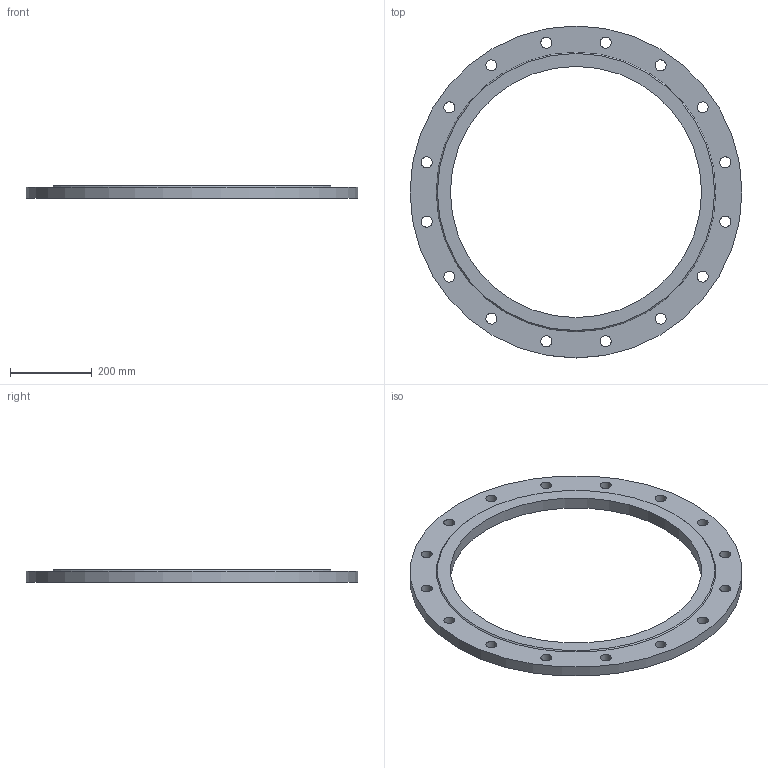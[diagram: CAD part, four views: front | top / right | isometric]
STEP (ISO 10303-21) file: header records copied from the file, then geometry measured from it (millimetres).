
FILE_DESCRIPTION(/* description */ (''),/* implementation_level */ '2;1');
FILE_NAME(/* name */ 'C:\Users\D\Documents\Inventor\HP\JIS\フランジ\水道用フランジF12\PL\ffws_pl_600.stp',/* time_stamp */ '2024-08-28T10:12:30+09:00',/* author */ ('D'),/* organization */ (''),/* preprocessor_version */ 'ST-DEVELOPER v18',/* originating_system */ 'Autodesk Inventor 2020',/* authorisation */ '');
FILE_SCHEMA (('AUTOMOTIVE_DESIGN { 1 0 10303 214 3 1 1 }'));
Length unit declared in the file: millimetre
Products named in the file (1): ffws_pl_80
Bounding box: 810 x 810 x 30 mm (x, y, z)
Volume: 5898209.8 mm3; surface area: 587795.9 mm2
Topology: 1 solids, 1 shells, 22 faces, 78 edges, 59 vertices
Faces by surface type: cylinder 18, plane 3, cone 1
Full cylindrical faces by diameter (mm): 27 x16, 613 x1, 810 x1
Entity records: 1018 total; most frequent: DIRECTION 183, CARTESIAN_POINT 160, ORIENTED_EDGE 156, AXIS2_PLACEMENT_3D 82, EDGE_CURVE 78, CIRCLE 59, VERTEX_POINT 59, EDGE_LOOP 57
